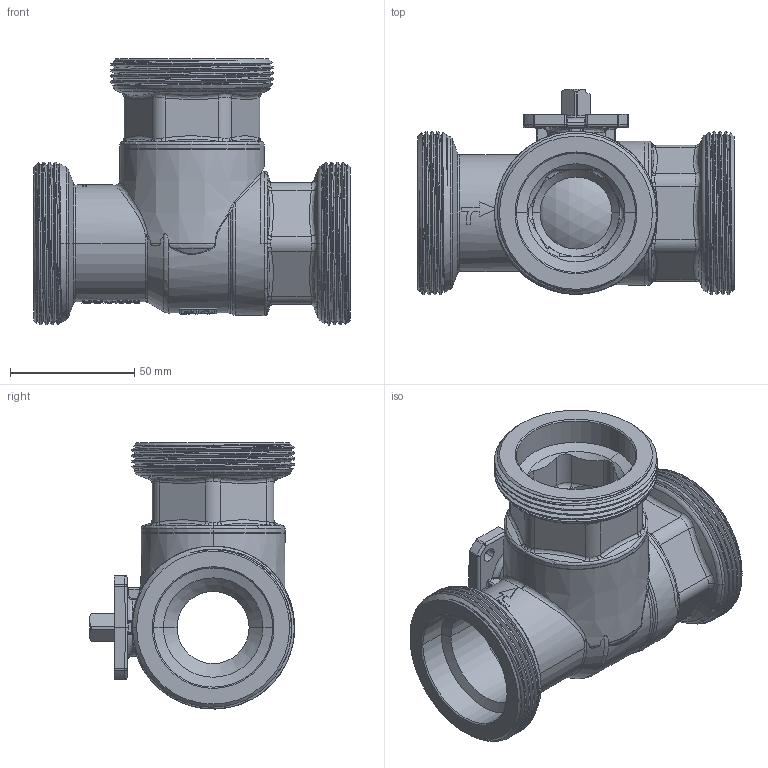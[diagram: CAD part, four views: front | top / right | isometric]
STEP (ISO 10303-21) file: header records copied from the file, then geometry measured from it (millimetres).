
FILE_DESCRIPTION((''),'2;1');
FILE_NAME('H988FT040_2346_SW0001','2015-05-11T',('64ciro'),('Vir spa'),'PRO/ENGINEER BY PARAMETRIC TECHNOLOGY CORPORATION, 2010280','PRO/ENGINEER BY PARAMETRIC TECHNOLOGY CORPORATION, 2010280','');
FILE_SCHEMA(('CONFIG_CONTROL_DESIGN'));
Products named in the file (1): H988FT040_2346_SW0001
Bounding box: 127.4 x 82.6 x 107.1 mm (x, y, z)
Volume: 240461.1 mm3; surface area: 87409.5 mm2
Topology: 1 solids, 2 shells, 1031 faces, 2596 edges, 1613 vertices
Faces by surface type: cylinder 268, plane 234, bspline 192, extrusion 179, cone 91, torus 57, sphere 10
Entity records: 49658 total; most frequent: CARTESIAN_POINT 27219, ORIENTED_EDGE 5192, DIRECTION 3743, EDGE_CURVE 2596, VERTEX_POINT 1613, AXIS2_PLACEMENT_3D 1349, B_SPLINE_CURVE_WITH_KNOTS 1220, EDGE_LOOP 1095
